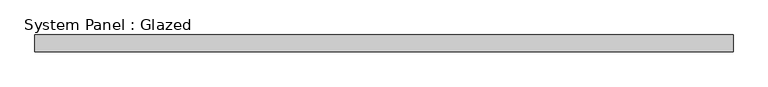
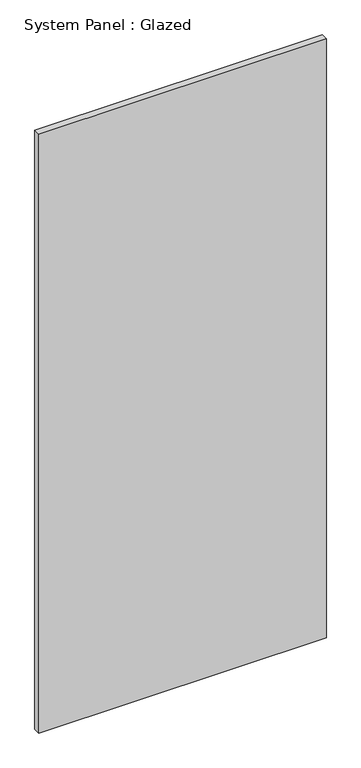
"""IFC4 building model written with IfcOpenShell, lengths in millimetres: plate geometry, System Panel : Glazed."""

from ifc_helpers import new_model, si_unit, origin, origin_with_axes, place, context, project, spatial, polyline, outline, extrude, source, transform, mapped, element, save


def system_panel_glazed_08b702ac(model_context):
    return source(origin(), model_context, "Body", "SweptSolid", [
        extrude(outline(polyline([(516.726465, -12.5), (-516.726465, -12.5), (-516.726465, 12.5), (516.726465, 12.5), (516.726465, -12.5)])), origin_with_axes(), (0.0, 0.0, 1.0), 2275.0),
    ])


if __name__ == "__main__":
    model = new_model("IFC4")
    model_context = context("Model", 3, world=origin())
    ifc_project = project(units=[si_unit("LENGTHUNIT", "METRE", prefix="MILLI")], contexts=[model_context])
    site = spatial("IfcSite", under=ifc_project)
    building = spatial("IfcBuilding", under=site)
    placement = place(None, origin())
    system_panel_glazed_shape = system_panel_glazed_08b702ac(model_context)
    element("IfcPlate", 1, ObjectType="System Panel : Glazed", at=placement, inside=building, context=model_context, shape_type="MappedRepresentation", body=[
        mapped(system_panel_glazed_shape, transform((0.0, 0.0, 0.0), x_axis=(1.0, 0.0, 0.0), y_axis=(0.0, 1.0, 0.0), z_axis=(0.0, 0.0, 1.0))),
    ])
    save(model, "model.ifc")
